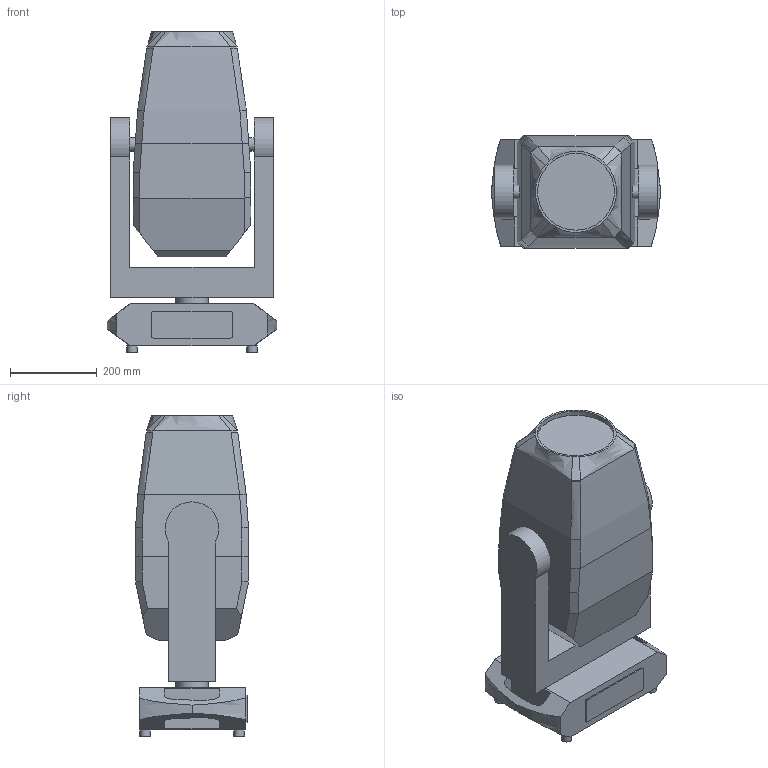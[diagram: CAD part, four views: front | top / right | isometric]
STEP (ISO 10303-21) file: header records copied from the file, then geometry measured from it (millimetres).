
FILE_DESCRIPTION(/* description */ (''),/* implementation_level */ '2;1');
FILE_NAME(/* name */ 'MAVERICK STORM 1 FLEX_0.stp',/* time_stamp */ '2024-12-27T16:21:24-05:00',/* author */ ('chenry'),/* organization */ (''),/* preprocessor_version */ 'ST-DEVELOPER v20',/* originating_system */ 'Autodesk Inventor 2024',/* authorisation */ '');
FILE_SCHEMA (('AUTOMOTIVE_DESIGN { 1 0 10303 214 3 1 1 }'));
Length unit declared in the file: millimetre
Products named in the file (4): MIP-520_LED_HYBRID_1_ASM; BASE; Arm; Head
Assembly tree (3 placements, depth 2):
  MIP-520_LED_HYBRID_1_ASM
    BASE
    Arm
    Head
Bounding box: 388.81 x 259.51 x 738.1 mm (x, y, z)
Volume: 44610672.1 mm3; surface area: 1232945.7 mm2
Topology: 3 solids, 3 shells, 119 faces, 290 edges, 184 vertices
Faces by surface type: plane 69, bspline 34, cylinder 16
Full cylindrical faces by diameter (mm): 23.335 x4, 30.951 x3, 74.8 x2, 176.785 x1
Entity records: 27351 total; most frequent: CARTESIAN_POINT 24567, ORIENTED_EDGE 580, DIRECTION 457, EDGE_CURVE 290, LINE 193, VECTOR 193, VERTEX_POINT 184, AXIS2_PLACEMENT_3D 132
